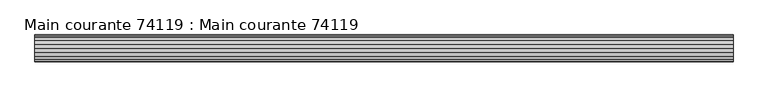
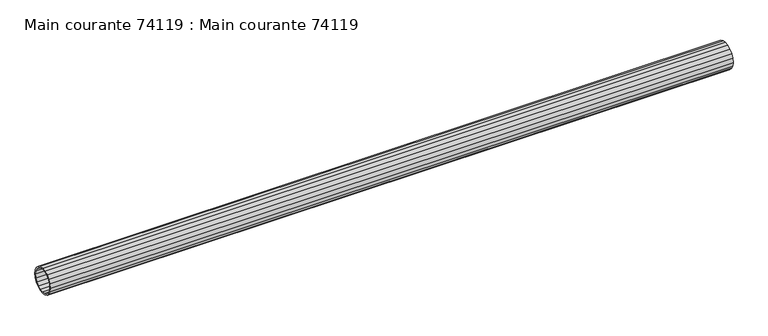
"""IFC4 building model written with IfcOpenShell, lengths in millimetres: beam geometry, Main courante 74119 : Main courante 74119."""

from ifc_helpers import new_model, si_unit, frame, origin, place, context, project, spatial, polyline, outline, extrude, source, transform, mapped, element, save


def main_courante_74119_main_courante_74119_2d6b85a2(model_context):
    return source(origin(), model_context, "Body", "SweptSolid", [
        extrude(outline(polyline([(-35749.8127604, 8787.9680149), (-35742.35, 8789.15), (-35734.8872396, 8787.9680149), (-35728.1549862, 8784.5377604), (-35722.8122396, 8779.1950138), (-35719.3819851, 8772.4627604), (-35718.2, 8765.0), (-35719.3819851, 8757.5372396), (-35722.8122396, 8750.8049862), (-35728.1549862, 8745.4622396), (-35734.8872396, 8742.0319851), (-35742.35, 8740.85), (-35749.8127604, 8742.0319851), (-35756.5450138, 8745.4622396), (-35761.8877604, 8750.8049862), (-35765.3180149, 8757.5372396), (-35766.5, 8765.0), (-35765.3180149, 8772.4627604), (-35761.8877604, 8779.1950138), (-35756.5450138, 8784.5377604), (-35749.8127604, 8787.9680149)]), holes=[polyline([(-35721.7596264, 8771.6902179), (-35724.8347821, 8777.7255507), (-35729.6244493, 8782.5152179), (-35735.6597821, 8785.5903736), (-35742.35, 8786.65), (-35749.0402179, 8785.5903736), (-35755.0755507, 8782.5152179), (-35759.8652179, 8777.7255507), (-35762.9403736, 8771.6902179), (-35764.0, 8765.0), (-35762.9403736, 8758.3097821), (-35759.8652179, 8752.2744493), (-35755.0755507, 8747.4847821), (-35749.0402179, 8744.4096264), (-35742.35, 8743.35), (-35735.6597821, 8744.4096264), (-35729.6244493, 8747.4847821), (-35724.8347821, 8752.2744493), (-35721.7596264, 8758.3097821), (-35720.7, 8765.0), (-35721.7596264, 8771.6902179)])]), frame((7646.9999999, 0.0, 0.0), z_axis=(1.0, 0.0, 0.0), x_axis=(0.0, 1.0, 0.0)), (0.0, 0.0, 1.0), 1249.5),
    ])


if __name__ == "__main__":
    model = new_model("IFC4")
    model_context = context("Model", 3, world=origin())
    ifc_project = project(units=[si_unit("LENGTHUNIT", "METRE", prefix="MILLI")], contexts=[model_context])
    site = spatial("IfcSite", under=ifc_project)
    building = spatial("IfcBuilding", under=site)
    placement = place(None, origin())
    main_courante_74119_main_courante_74119_shape = main_courante_74119_main_courante_74119_2d6b85a2(model_context)
    element("IfcBeam", 1, ObjectType="Main courante 74119 : Main courante 74119", at=placement, inside=building, context=model_context, shape_type="MappedRepresentation", body=[
        mapped(main_courante_74119_main_courante_74119_shape, transform((0.0, 0.0, 0.0), x_axis=(1.0, 0.0, 0.0), y_axis=(0.0, 1.0, 0.0), z_axis=(0.0, 0.0, 1.0))),
    ])
    save(model, "model.ifc")
